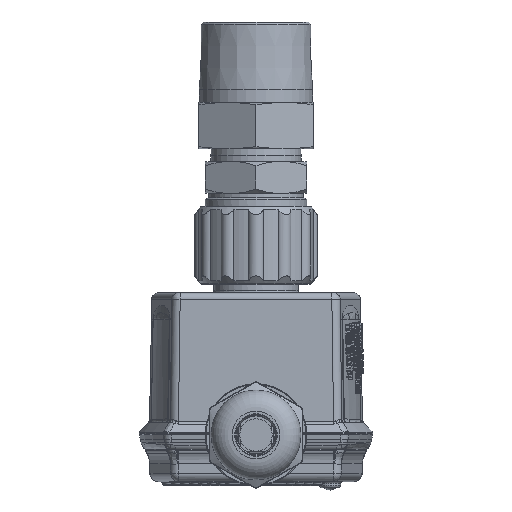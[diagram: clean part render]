
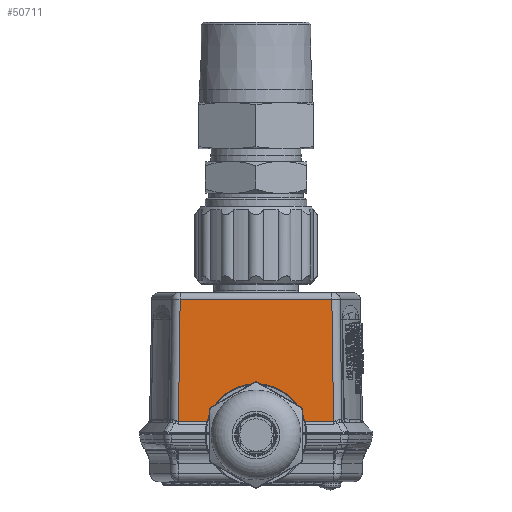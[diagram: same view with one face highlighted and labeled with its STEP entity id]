
A CAD part, front view. The second image highlights one B-rep face of the part: STEP entity #50711.
In plain terms, the highlighted planar face has unit normal (0, -1, 0.018).
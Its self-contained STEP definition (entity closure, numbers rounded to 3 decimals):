
#933=(
BOUNDED_CURVE()
B_SPLINE_CURVE(3,(#120214,#120215,#120216,#120217,#120218,#120219),
 .UNSPECIFIED.,.F.,.F.)
B_SPLINE_CURVE_WITH_KNOTS((4,2,4),(3.188,3.95,4.712),
 .UNSPECIFIED.)
CURVE()
GEOMETRIC_REPRESENTATION_ITEM()
RATIONAL_B_SPLINE_CURVE((1.,1.,1.,1.,1.,1.))
REPRESENTATION_ITEM('')
);
#934=(
BOUNDED_CURVE()
B_SPLINE_CURVE(3,(#120223,#120224,#120225,#120226,#120227,#120228),
 .UNSPECIFIED.,.F.,.F.)
B_SPLINE_CURVE_WITH_KNOTS((4,2,4),(1.571,2.333,3.095),
 .UNSPECIFIED.)
CURVE()
GEOMETRIC_REPRESENTATION_ITEM()
RATIONAL_B_SPLINE_CURVE((1.,1.,1.,1.,1.,1.))
REPRESENTATION_ITEM('')
);
#2644=CIRCLE('',#54079,12.2);
#6190=PLANE('',#54078);
#8283=LINE('',#120196,#10747);
#8284=LINE('',#120212,#10748);
#8285=LINE('',#120230,#10749);
#8286=LINE('',#120246,#10750);
#8287=LINE('',#120248,#10751);
#8288=LINE('',#120250,#10752);
#8289=LINE('',#120251,#10753);
#10747=VECTOR('',#62351,10.767);
#10748=VECTOR('',#62352,3.643);
#10749=VECTOR('',#62355,3.643);
#10750=VECTOR('',#62356,10.767);
#10751=VECTOR('',#62357,28.884);
#10752=VECTOR('',#62358,35.856);
#10753=VECTOR('',#62359,28.884);
#14130=FACE_OUTER_BOUND('',#17288,.T.);
#17288=EDGE_LOOP('',(#44245,#44246,#44247,#44248,#44249,#44250,#44251,#44252,
#44253,#44254,#44255,#44256));
#20548=B_SPLINE_CURVE_WITH_KNOTS('',3,(#120198,#120199,#120200,#120201,
#120202,#120203,#120204,#120205,#120206,#120207,#120208,#120209,#120210),
 .UNSPECIFIED.,.F.,.F.,(4,3,3,3,4),(5.107,5.384,5.651,
5.919,6.167),.UNSPECIFIED.);
#20549=B_SPLINE_CURVE_WITH_KNOTS('',3,(#120232,#120233,#120234,#120235,
#120236,#120237,#120238,#120239,#120240,#120241,#120242,#120243,#120244),
 .UNSPECIFIED.,.F.,.F.,(4,3,3,3,4),(0.116,0.381,
0.646,0.911,1.176),.UNSPECIFIED.);
#24843=VERTEX_POINT('',#120194);
#24844=VERTEX_POINT('',#120195);
#24845=VERTEX_POINT('',#120197);
#24846=VERTEX_POINT('',#120211);
#24847=VERTEX_POINT('',#120213);
#24848=VERTEX_POINT('',#120220);
#24849=VERTEX_POINT('',#120222);
#24850=VERTEX_POINT('',#120229);
#24851=VERTEX_POINT('',#120231);
#24852=VERTEX_POINT('',#120245);
#24853=VERTEX_POINT('',#120247);
#24854=VERTEX_POINT('',#120249);
#31491=EDGE_CURVE('',#24843,#24844,#8283,.T.);
#31492=EDGE_CURVE('',#24844,#24845,#20548,.T.);
#31493=EDGE_CURVE('',#24845,#24846,#8284,.T.);
#31494=EDGE_CURVE('',#24847,#24846,#933,.T.);
#31495=EDGE_CURVE('',#24847,#24848,#2644,.T.);
#31496=EDGE_CURVE('',#24849,#24848,#934,.T.);
#31497=EDGE_CURVE('',#24849,#24850,#8285,.T.);
#31498=EDGE_CURVE('',#24850,#24851,#20549,.T.);
#31499=EDGE_CURVE('',#24851,#24852,#8286,.T.);
#31500=EDGE_CURVE('',#24852,#24853,#8287,.T.);
#31501=EDGE_CURVE('',#24853,#24854,#8288,.T.);
#31502=EDGE_CURVE('',#24854,#24843,#8289,.T.);
#44245=ORIENTED_EDGE('',*,*,#31491,.T.);
#44246=ORIENTED_EDGE('',*,*,#31492,.T.);
#44247=ORIENTED_EDGE('',*,*,#31493,.T.);
#44248=ORIENTED_EDGE('',*,*,#31494,.F.);
#44249=ORIENTED_EDGE('',*,*,#31495,.T.);
#44250=ORIENTED_EDGE('',*,*,#31496,.F.);
#44251=ORIENTED_EDGE('',*,*,#31497,.T.);
#44252=ORIENTED_EDGE('',*,*,#31498,.T.);
#44253=ORIENTED_EDGE('',*,*,#31499,.T.);
#44254=ORIENTED_EDGE('',*,*,#31500,.T.);
#44255=ORIENTED_EDGE('',*,*,#31501,.T.);
#44256=ORIENTED_EDGE('',*,*,#31502,.T.);
#50711=ADVANCED_FACE('',(#14130),#6190,.T.);
#54078=AXIS2_PLACEMENT_3D('',#120193,#62349,#62350);
#54079=AXIS2_PLACEMENT_3D('',#120221,#62353,#62354);
#62349=DIRECTION('center_axis',(0.,-1.,0.017));
#62350=DIRECTION('ref_axis',(0.,-0.017,-1.));
#62351=DIRECTION('',(1.,0.,0.));
#62352=DIRECTION('',(0.,0.017,1.));
#62353=DIRECTION('center_axis',(0.,1.,
-0.017));
#62354=DIRECTION('ref_axis',(0.047,0.017,0.999));
#62355=DIRECTION('',(0.,-0.017,-1.));
#62356=DIRECTION('',(1.,0.,0.));
#62357=DIRECTION('',(-0.014,0.017,1.));
#62358=DIRECTION('',(-1.,0.,0.));
#62359=DIRECTION('',(-0.014,-0.017,-1.));
#120193=CARTESIAN_POINT('Origin',(20.,-23.,-33.5));
#120194=CARTESIAN_POINT('',(-18.336,-22.945,-30.35));
#120195=CARTESIAN_POINT('',(-7.569,-22.945,-30.35));
#120196=CARTESIAN_POINT('',(-7.503,-22.945,-30.35));
#120197=CARTESIAN_POINT('',(-0.95,-22.858,-25.359));
#120198=CARTESIAN_POINT('Ctrl Pts',(-7.569,-22.945,
-30.35));
#120199=CARTESIAN_POINT('Ctrl Pts',(-7.292,-22.933,
-29.684));
#120200=CARTESIAN_POINT('Ctrl Pts',(-6.914,-22.922,
-29.03));
#120201=CARTESIAN_POINT('Ctrl Pts',(-6.443,-22.912,
-28.431));
#120202=CARTESIAN_POINT('Ctrl Pts',(-5.988,-22.901,
-27.853));
#120203=CARTESIAN_POINT('Ctrl Pts',(-5.446,-22.892,
-27.328));
#120204=CARTESIAN_POINT('Ctrl Pts',(-4.843,-22.885,
-26.886));
#120205=CARTESIAN_POINT('Ctrl Pts',(-4.238,-22.877,
-26.444));
#120206=CARTESIAN_POINT('Ctrl Pts',(-3.573,-22.871,
-26.086));
#120207=CARTESIAN_POINT('Ctrl Pts',(-2.885,-22.866,
-25.828));
#120208=CARTESIAN_POINT('Ctrl Pts',(-2.248,-22.862,
-25.588));
#120209=CARTESIAN_POINT('Ctrl Pts',(-1.593,-22.859,
-25.434));
#120210=CARTESIAN_POINT('Ctrl Pts',(-0.95,-22.858,
-25.359));
#120211=CARTESIAN_POINT('',(-0.95,-22.794,-21.716));
#120212=CARTESIAN_POINT('',(-0.95,-23.,-33.5));
#120213=CARTESIAN_POINT('',(-0.569,-22.787,-21.317));
#120214=CARTESIAN_POINT('Ctrl Pts',(-0.569,-22.787,
-21.317));
#120215=CARTESIAN_POINT('Ctrl Pts',(-0.67,-22.787,
-21.321));
#120216=CARTESIAN_POINT('Ctrl Pts',(-0.769,-22.788,
-21.367));
#120217=CARTESIAN_POINT('Ctrl Pts',(-0.91,-22.791,
-21.514));
#120218=CARTESIAN_POINT('Ctrl Pts',(-0.95,-22.793,
-21.614));
#120219=CARTESIAN_POINT('Ctrl Pts',(-0.95,-22.794,-21.716));
#120220=CARTESIAN_POINT('',(0.569,-22.787,-21.317));
#120221=CARTESIAN_POINT('Origin',(0.,-23.,
-33.502));
#120222=CARTESIAN_POINT('',(0.95,-22.794,-21.716));
#120223=CARTESIAN_POINT('Ctrl Pts',(0.95,-22.794,-21.716));
#120224=CARTESIAN_POINT('Ctrl Pts',(0.95,-22.793,
-21.614));
#120225=CARTESIAN_POINT('Ctrl Pts',(0.91,-22.791,
-21.514));
#120226=CARTESIAN_POINT('Ctrl Pts',(0.769,-22.788,
-21.367));
#120227=CARTESIAN_POINT('Ctrl Pts',(0.67,-22.787,
-21.321));
#120228=CARTESIAN_POINT('Ctrl Pts',(0.569,-22.787,
-21.317));
#120229=CARTESIAN_POINT('',(0.95,-22.858,-25.359));
#120230=CARTESIAN_POINT('',(0.95,-23.,-33.5));
#120231=CARTESIAN_POINT('',(7.569,-22.945,-30.35));
#120232=CARTESIAN_POINT('Ctrl Pts',(0.95,-22.858,
-25.359));
#120233=CARTESIAN_POINT('Ctrl Pts',(1.669,-22.859,
-25.443));
#120234=CARTESIAN_POINT('Ctrl Pts',(2.378,-22.862,
-25.622));
#120235=CARTESIAN_POINT('Ctrl Pts',(3.05,-22.867,
-25.892));
#120236=CARTESIAN_POINT('Ctrl Pts',(3.722,-22.872,
-26.161));
#120237=CARTESIAN_POINT('Ctrl Pts',(4.359,-22.878,
-26.52));
#120238=CARTESIAN_POINT('Ctrl Pts',(4.937,-22.886,
-26.956));
#120239=CARTESIAN_POINT('Ctrl Pts',(5.515,-22.893,-27.392));
#120240=CARTESIAN_POINT('Ctrl Pts',(6.035,-22.902,
-27.906));
#120241=CARTESIAN_POINT('Ctrl Pts',(6.479,-22.912,
-28.478));
#120242=CARTESIAN_POINT('Ctrl Pts',(6.923,-22.922,
-29.05));
#120243=CARTESIAN_POINT('Ctrl Pts',(7.291,-22.933,
-29.682));
#120244=CARTESIAN_POINT('Ctrl Pts',(7.569,-22.945,-30.35));
#120245=CARTESIAN_POINT('',(18.336,-22.945,-30.35));
#120246=CARTESIAN_POINT('',(18.341,-22.945,-30.35));
#120247=CARTESIAN_POINT('',(17.928,-22.441,-1.474));
#120248=CARTESIAN_POINT('',(18.381,-23.,-33.523));
#120249=CARTESIAN_POINT('',(-17.928,-22.441,-1.474));
#120250=CARTESIAN_POINT('',(-17.907,-22.441,-1.474));
#120251=CARTESIAN_POINT('',(-18.373,-22.991,-32.958));
